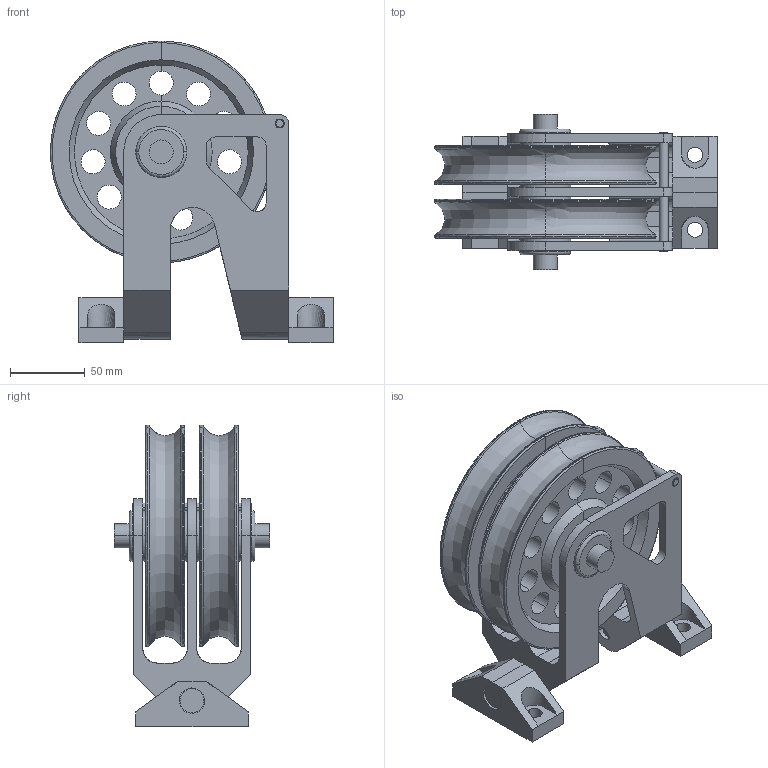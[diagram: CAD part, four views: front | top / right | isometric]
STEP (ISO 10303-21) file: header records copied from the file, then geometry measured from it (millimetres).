
FILE_DESCRIPTION(/* description */ (''),/* implementation_level */ '2;1');
FILE_NAME(/* name */ 'POULIE DOUBLE ARTICULEE D 150',/* time_stamp */ '2005-05-31T08:51:43+02:00',/* author */ (''),/* organization */ (''),/* preprocessor_version */ 'ST-DEVELOPER v8',/* originating_system */ '',/* authorisation */ '');
FILE_SCHEMA (('CONFIG_CONTROL_DESIGN'));
Length unit declared in the file: millimetre
Products named in the file (1): 1
Bounding box: 188.98 x 104 x 201.5 mm (x, y, z)
Volume: 960394.8 mm3; surface area: 286925.5 mm2
Topology: 33 solids, 39 shells, 558 faces, 1256 edges, 754 vertices
Faces by surface type: bspline 558
Entity records: 21074 total; most frequent: CARTESIAN_POINT 13715, ORIENTED_EDGE 2490, EDGE_CURVE 1252, VERTEX_POINT 750, EDGE_LOOP 670, B_SPLINE_CURVE_WITH_KNOTS 662, ADVANCED_FACE 558, FACE_OUTER_BOUND 558
